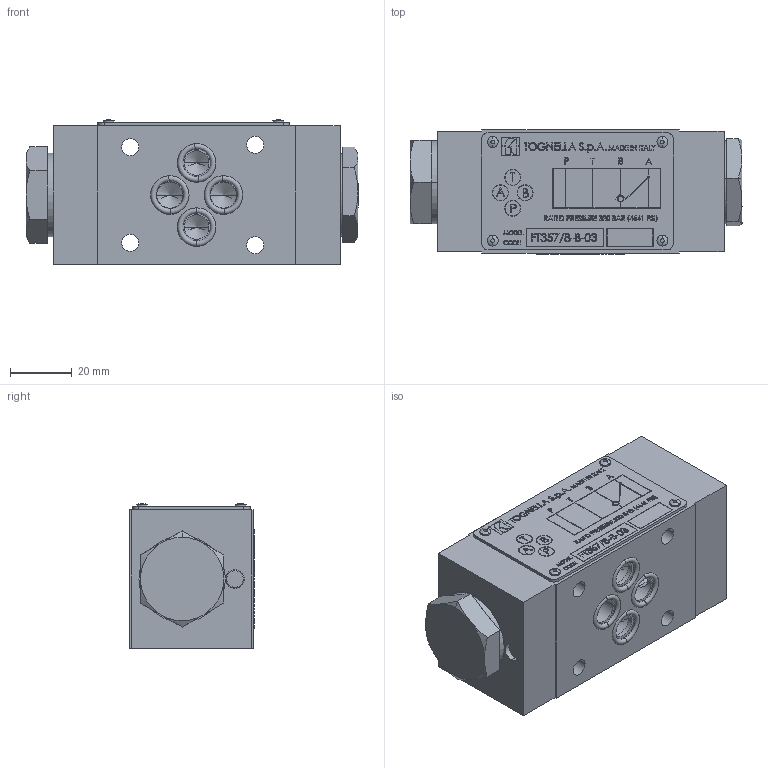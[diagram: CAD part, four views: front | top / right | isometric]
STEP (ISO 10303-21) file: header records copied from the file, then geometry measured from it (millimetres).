
FILE_DESCRIPTION (( 'STEP AP214' ), '1' );
FILE_NAME ('FT357-8-B-03.STEP', '2014-06-17T06:17:03', ( '' ), ( '' ), 'SwSTEP 2.0', 'SolidWorks 2014', '' );
FILE_SCHEMA (( 'AUTOMOTIVE_DESIGN' ));
Length unit declared in the file: millimetre
Products named in the file (17): AnelloFT267_2-38; OR2050; 257-5-008001; OR2037; OR3068; RivettoTarga; 357-8-B015000; 357-8-A010000; 357-8-AB001000; FT357-8-B-03; HK060CK55-111; 357-8-AB019000; FT245_6-14; 2257-6-009001; 280-5-021000; 245-6-001000; OR2043
Assembly tree (25 placements, depth 3):
  FT357-8-B-03
    357-8-AB001000
    357-8-A010000
    357-8-B015000
    RivettoTarga  x4
    OR3068  x2
    OR2037  x4
    FT245_6-14
      257-5-008001
      OR2050
      AnelloFT267_2-38  x2
      OR2043
      245-6-001000
      280-5-021000
      2257-6-009001
    357-8-AB019000
    HK060CK55-111  x2
Bounding box: 107.6 x 40.38 x 46.96 mm (x, y, z)
Volume: 159997.4 mm3; surface area: 48970.1 mm2
Topology: 24 solids, 24 shells, 1804 faces, 4525 edges, 2918 vertices
Faces by surface type: plane 959, bspline 369, cylinder 268, cone 158, torus 50
Entity records: 87824 total; most frequent: CARTESIAN_POINT 35128, ORIENTED_EDGE 8686, DIRECTION 6835, EDGE_CURVE 4343, VECTOR 2867, LINE 2867, VERTEX_POINT 2829, AXIS2_PLACEMENT_3D 1984
